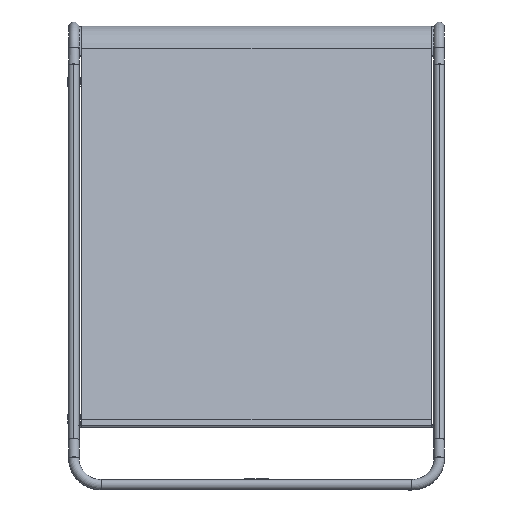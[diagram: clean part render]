
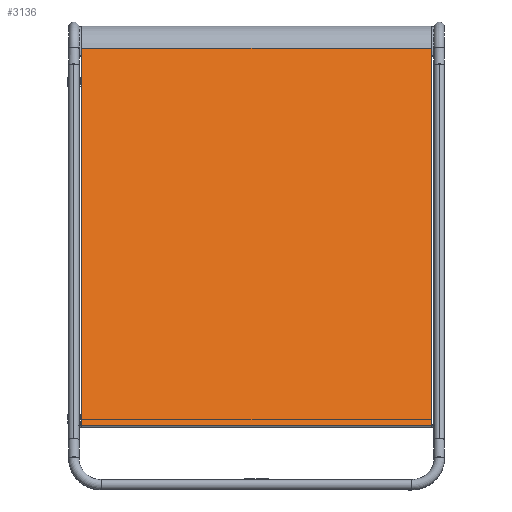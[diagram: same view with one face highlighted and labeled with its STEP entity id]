
A CAD part, front view. The second image highlights one B-rep face of the part: STEP entity #3136.
In plain terms, the highlighted planar face has unit normal (0, -0.965, 0.261).
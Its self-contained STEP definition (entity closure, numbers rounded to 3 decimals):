
#200=PLANE('',#3466);
#371=FACE_OUTER_BOUND('',#587,.T.);
#587=EDGE_LOOP('',(#2585,#2586,#2587,#2588));
#971=LINE('',#7592,#1179);
#972=LINE('',#7596,#1180);
#973=LINE('',#7598,#1181);
#974=LINE('',#7599,#1182);
#1179=VECTOR('',#4225,304.8);
#1180=VECTOR('',#4230,304.8);
#1181=VECTOR('',#4231,304.8);
#1182=VECTOR('',#4232,304.8);
#1443=VERTEX_POINT('',#7589);
#1444=VERTEX_POINT('',#7591);
#1445=VERTEX_POINT('',#7595);
#1446=VERTEX_POINT('',#7597);
#1838=EDGE_CURVE('',#1444,#1443,#971,.T.);
#1840=EDGE_CURVE('',#1445,#1443,#972,.T.);
#1841=EDGE_CURVE('',#1446,#1445,#973,.T.);
#1842=EDGE_CURVE('',#1444,#1446,#974,.T.);
#2585=ORIENTED_EDGE('',*,*,#1840,.F.);
#2586=ORIENTED_EDGE('',*,*,#1841,.F.);
#2587=ORIENTED_EDGE('',*,*,#1842,.F.);
#2588=ORIENTED_EDGE('',*,*,#1838,.T.);
#3136=ADVANCED_FACE('',(#371),#200,.T.);
#3466=AXIS2_PLACEMENT_3D('',#7594,#4228,#4229);
#4225=DIRECTION('',(1.,0.,0.));
#4228=DIRECTION('center_axis',(0.,-0.965,0.261));
#4229=DIRECTION('ref_axis',(-1.,0.,0.));
#4230=DIRECTION('',(0.,-0.261,-0.965));
#4231=DIRECTION('',(1.,0.,0.));
#4232=DIRECTION('',(0.,0.261,0.965));
#7589=CARTESIAN_POINT('',(300.,-224.214,111.336));
#7591=CARTESIAN_POINT('',(-300.,-224.214,111.336));
#7592=CARTESIAN_POINT('',(-300.,-224.214,111.336));
#7594=CARTESIAN_POINT('Origin',(300.,-49.231,758.202));
#7595=CARTESIAN_POINT('',(300.,-49.231,758.202));
#7596=CARTESIAN_POINT('',(300.,-49.231,758.202));
#7597=CARTESIAN_POINT('',(-300.,-49.231,758.202));
#7598=CARTESIAN_POINT('',(-300.,-49.231,758.202));
#7599=CARTESIAN_POINT('',(-300.,-224.214,111.336));
